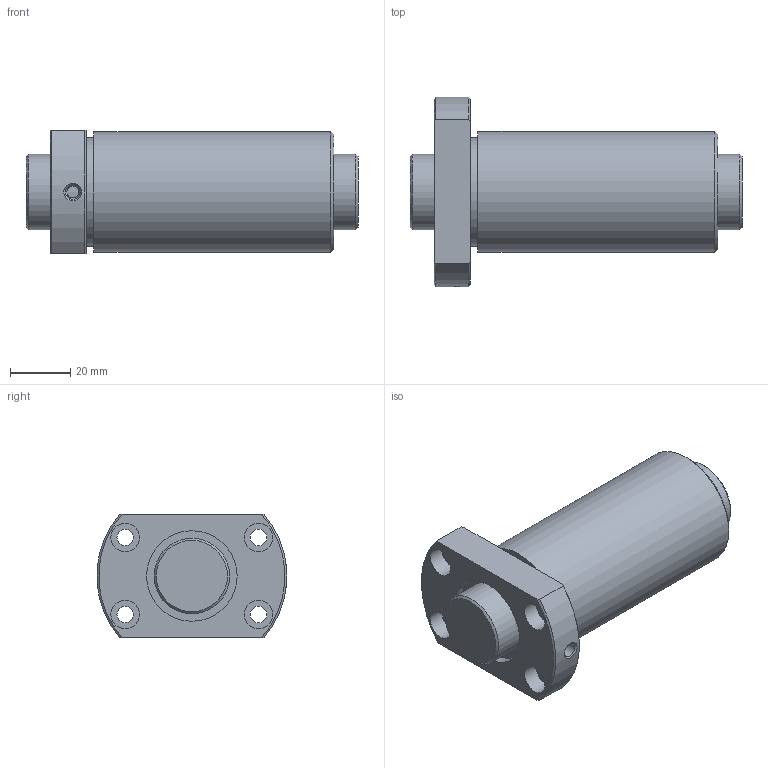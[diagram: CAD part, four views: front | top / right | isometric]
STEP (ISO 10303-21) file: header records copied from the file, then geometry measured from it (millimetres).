
FILE_DESCRIPTION(/* description */ ('STEP AP203'),/* implementation_level */ '2;1');
FILE_NAME(/* name */ 'DIK2508-6RRG0+110LC0_000',/* time_stamp */ '2025-01-13T09:53:38+01:00',/* author */ ('License CC BY-ND 4.0'),/* organization */ ('CADENAS'),/* preprocessor_version */ 'ST-DEVELOPER v19.3',/* originating_system */ 'PARTsolutions',/* authorisation */ ' ');
FILE_SCHEMA (('CONFIG_CONTROL_DESIGN'));
Length unit declared in the file: millimetre
Products named in the file (3): DIK2508-6RRG0+110LC0_000; DIK 2508-6RR011000 Shaft; DIK 2508-6RR Nut
Assembly tree (2 placements, depth 2):
  DIK2508-6RRG0+110LC0_000
    DIK 2508-6RR011000 Shaft
    DIK 2508-6RR Nut
Bounding box: 110 x 62.9 x 41 mm (x, y, z)
Volume: 135018.3 mm3; surface area: 34800.6 mm2
Topology: 2 solids, 2 shells, 41 faces, 83 edges, 54 vertices
Faces by surface type: cylinder 18, plane 14, cone 9
Full cylindrical faces by diameter (mm): 4 x1, 4.917 x1, 5.5 x4, 9.5 x4, 25 x2, 30 x2, 36 x1, 40 x1
Entity records: 1087 total; most frequent: CARTESIAN_POINT 200, DIRECTION 180, ORIENTED_EDGE 120, AXIS2_PLACEMENT_3D 86, EDGE_LOOP 82, FACE_BOUND 82, EDGE_CURVE 60, VERTEX_POINT 52
